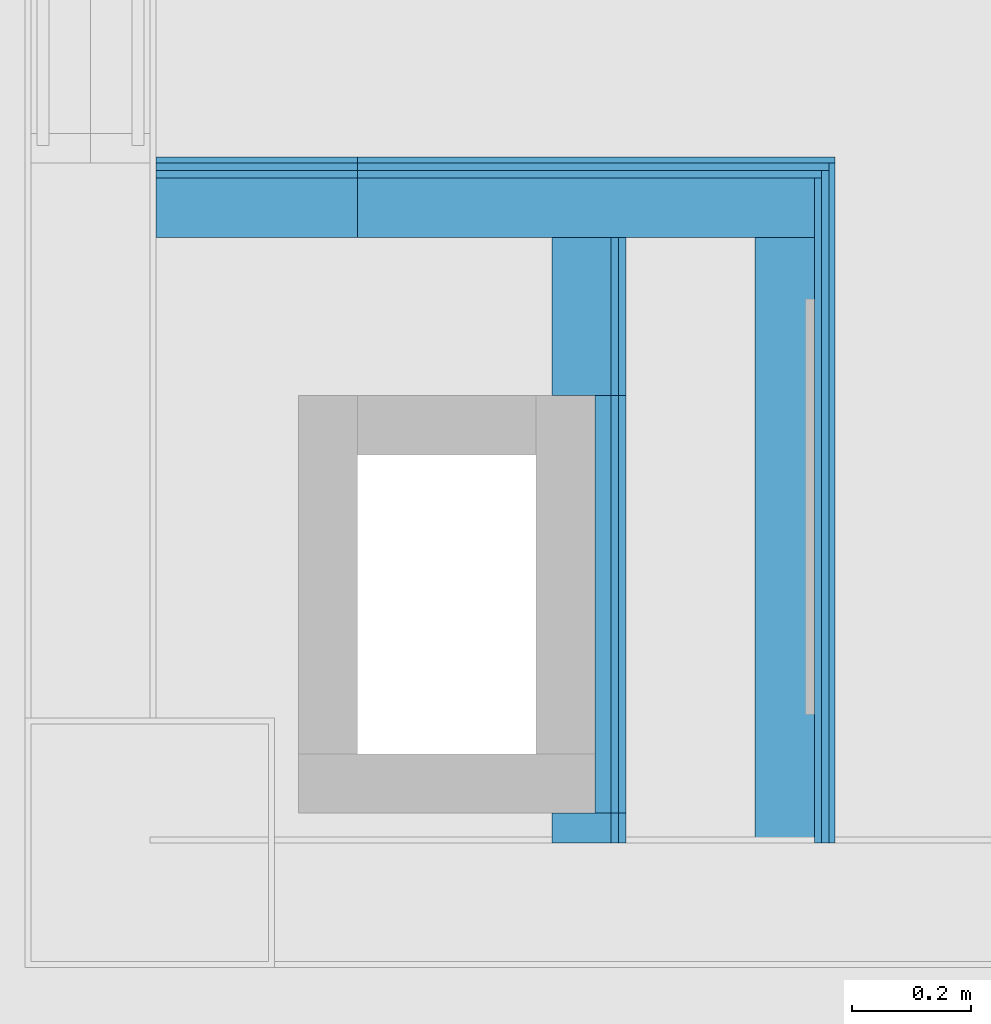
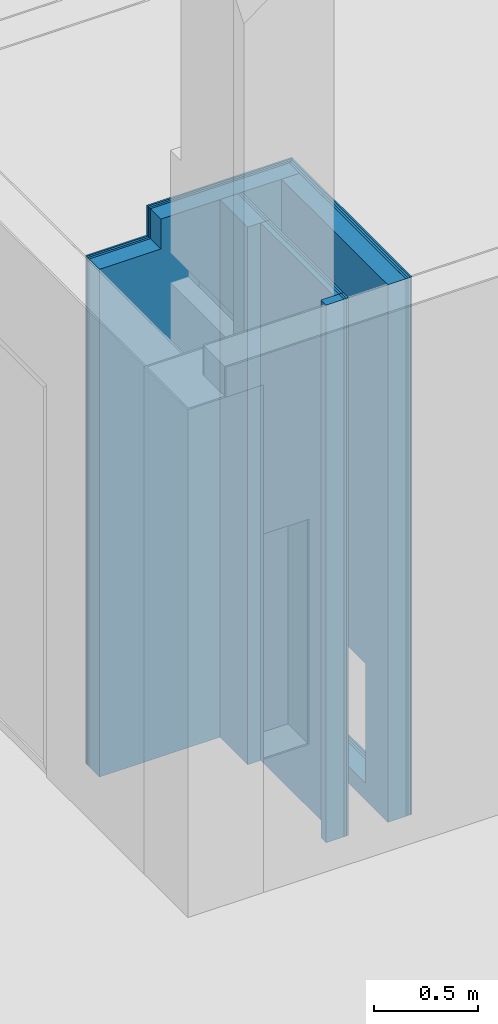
# One storey, part 73 of 139: 17 building element parts, 1 opening, 5 elements without a shape of their own.
"""IFC2X3 building model written with IfcOpenShell, lengths in millimetres."""

from ifc_helpers import new_model, entity, si_unit, converted_unit, derived_unit, money_unit, direction, frame, origin_with_axes, place, context, subcontext, project, spatial, faceted_brep, material, type_object, element, aggregate, save


model = new_model("IFC2X3")

# Units and contexts
model_context = context("Model", 3, precision=0.01, world=origin_with_axes(), true_north=direction((0.0, 1.0)))
body_context = subcontext(model_context, "Body", "Model", "MODEL_VIEW")
ifc_project = project(units=[si_unit("LENGTHUNIT", "METRE", prefix="MILLI"), si_unit("AREAUNIT", "SQUARE_METRE"), si_unit("VOLUMEUNIT", "CUBIC_METRE"), converted_unit("PLANEANGLEUNIT", "DEGREE", entity("IfcPlaneAngleMeasure", 0.0174532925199), si_unit("PLANEANGLEUNIT", "RADIAN"), dimensions=[0, 0, 0, 0, 0, 0, 0]), money_unit("EUR"), converted_unit("TIMEUNIT", "Year", entity("IfcTimeMeasure", 31556926.0), si_unit("TIMEUNIT", "SECOND"), dimensions=[0, 0, 1, 0, 0, 0, 0]), si_unit("MASSUNIT", "GRAM", prefix="KILO"), si_unit("THERMODYNAMICTEMPERATUREUNIT", "DEGREE_CELSIUS"), si_unit("LUMINOUSINTENSITYUNIT", "LUMEN"), si_unit("ENERGYUNIT", "JOULE", prefix="MEGA"), derived_unit("THERMALCONDUCTANCEUNIT", [(si_unit("POWERUNIT", "WATT"), 1), (si_unit("LENGTHUNIT", "METRE"), -1), (si_unit("THERMODYNAMICTEMPERATUREUNIT", "KELVIN"), -1)]), derived_unit("SPECIFICHEATCAPACITYUNIT", [(si_unit("ENERGYUNIT", "JOULE"), 1), (si_unit("MASSUNIT", "GRAM", prefix="KILO"), -1), (si_unit("THERMODYNAMICTEMPERATUREUNIT", "KELVIN"), -1)]), derived_unit("MASSDENSITYUNIT", [(si_unit("MASSUNIT", "GRAM", prefix="KILO"), 1), (si_unit("VOLUMEUNIT", "CUBIC_METRE"), -1)])], contexts=[model_context])

# Site, building, storey
site_placement = place(None, origin_with_axes())
site = spatial("IfcSite", under=ifc_project, at=site_placement, Name="Kolde pst 67a", CompositionType="ELEMENT")
building_placement = place(site_placement, origin_with_axes())
building = spatial("IfcBuilding", under=site, at=building_placement, Name="Riigigümnaasium", CompositionType="ELEMENT")
storey_placement = place(building_placement, frame((0.0, 0.0, 4600.0), z_axis=(0.0, 0.0, 1.0), x_axis=(1.0, 0.0, 0.0)))
storey = spatial("IfcBuildingStorey", under=building, at=storey_placement, Name="2. korrus", CompositionType="ELEMENT", Elevation=4600.0)

# Wall, building element parts
wall_type_1 = type_object("IfcWallType", Name="SS-MK-10/6_šahti sein+krohv 40 dB 135", PredefinedType="NOTDEFINED")
wall_1_placement = place(storey_placement, frame((58339.9488767, 12054.9619407, 0.0), z_axis=(0.0, 0.0, 1.0), x_axis=(1.0, 0.0, 0.0)))
wall_1 = element("IfcWall", 1, at=wall_1_placement, inside=storey, type_object=wall_type_1, Name="Sisesein")
ifc_material_1 = material(Name="_VIIMISTLUSKIHT - viimistlus vastavalt SA osale")
building_element_part_1_placement = place(wall_1_placement, origin_with_axes())
building_element_part_1 = element("IfcBuildingElementPart", 2, at=building_element_part_1_placement, material=ifc_material_1, Name="_VIIMISTLUSKIHT - viimistlus vastavalt SA osale", context=body_context, shape_type="Brep", body=[
    faceted_brep([(189.999980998, 0.0, 2975.0), (339.999980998, 0.0, 2975.0), (339.999980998, 0.0, 3150.0), (1144.11258875, 0.0, 3150.0), (1144.11258875, 0.0, 0.0), (0.0, 0.0, 0.0), (0.0, 0.0, 2975.0), (189.999980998, -10.0, 2975.0), (339.999980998, -10.0, 2975.0), (339.999980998, -10.0, 3150.0), (1144.11258875, -10.0, 3150.0), (1144.11258875, -10.0, 0.0), (0.0, -10.0, 0.0), (0.0, -10.0, 2975.0)], [[[0, 1, 2, 3, 4, 5, 6]], [[1, 0, 7, 8]], [[9, 2, 1, 8]], [[2, 9, 10, 3]], [[3, 10, 11, 4]], [[4, 11, 12, 5]], [[13, 6, 5, 12]], [[0, 6, 13, 7]], [[7, 13, 12, 11, 10, 9, 8]]]),
])
ifc_material_2 = material(Name="_PLAATMATERJAL - kipsplaat veekindel")
building_element_part_2_placement = place(wall_1_placement, origin_with_axes())
building_element_part_2 = element("IfcBuildingElementPart", 3, at=building_element_part_2_placement, material=ifc_material_2, Name="_PLAATMATERJAL - kipsplaat veekindel", context=body_context, shape_type="Brep", body=[
    faceted_brep([(189.999980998, -10.0, 2975.0), (339.999980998, -10.0, 2975.0), (339.999980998, -10.0, 3150.0), (1134.11258875, -10.0, 3150.0), (1134.11258875, -10.0, 0.0), (0.0, -10.0, 0.0), (0.0, -10.0, 2975.0), (189.999980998, -22.5, 2975.0), (339.999980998, -22.5, 2975.0), (339.999980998, -22.5, 3150.0), (1134.11258875, -22.5, 3150.0), (1134.11258875, -22.5, 0.0), (0.0, -22.5, 0.0), (0.0, -22.5, 2975.0)], [[[0, 1, 2, 3, 4, 5, 6]], [[1, 0, 7, 8]], [[9, 2, 1, 8]], [[2, 9, 10, 3]], [[3, 10, 11, 4]], [[4, 11, 12, 5]], [[13, 6, 5, 12]], [[0, 6, 13, 7]], [[7, 13, 12, 11, 10, 9, 8]]]),
])
building_element_part_3_placement = place(wall_1_placement, origin_with_axes())
building_element_part_3 = element("IfcBuildingElementPart", 4, at=building_element_part_3_placement, material=ifc_material_2, Name="_PLAATMATERJAL - kipsplaat veekindel", context=body_context, shape_type="Brep", body=[
    faceted_brep([(189.999980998, -22.5, 2975.0), (339.999980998, -22.5, 2975.0), (339.999980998, -22.5, 3150.0), (1121.61258875, -22.5, 3150.0), (1121.61258875, -22.5, 0.0), (0.0, -22.5, 0.0), (0.0, -22.5, 2975.0), (189.999980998, -35.0, 2975.0), (339.999980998, -35.0, 2975.0), (339.999980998, -35.0, 3150.0), (1121.61258875, -35.0, 3150.0), (1121.61258875, -35.0, 0.0), (0.0, -35.0, 0.0), (0.0, -35.0, 2975.0)], [[[0, 1, 2, 3, 4, 5, 6]], [[1, 0, 7, 8]], [[9, 2, 1, 8]], [[2, 9, 10, 3]], [[3, 10, 11, 4]], [[4, 11, 12, 5]], [[13, 6, 5, 12]], [[0, 6, 13, 7]], [[7, 13, 12, 11, 10, 9, 8]]]),
])
ifc_material_3 = material(Name="_KARKASS - metallkarkass CW 100/50/06 ja UW 100/40/06, samm 600, vahel mineraalvill, helineeldetegur αw = 1.0,  ISOVER ACOUSTIC 100mm või samaväärne")
building_element_part_4_placement = place(wall_1_placement, origin_with_axes())
building_element_part_4 = element("IfcBuildingElementPart", 5, at=building_element_part_4_placement, material=ifc_material_3, Name="_KARKASS - metallkarkass CW 100/50/06 ja UW 100/40/06, samm 600, vahel mineraalvill, helineeldetegur αw = 1.0,  ISOVER ACOUSTIC 100mm või samaväärne", context=body_context, shape_type="Brep", body=[
    faceted_brep([(189.999980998, -35.0, 2975.0), (339.999980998, -35.0, 2975.0), (339.999980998, -35.0, 3150.0), (1109.11258875, -35.0, 3150.0), (1109.11258875, -35.0, 0.0), (0.0, -35.0, 0.0), (0.0, -35.0, 2975.0), (189.999980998, -135.0, 2975.0), (339.999980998, -135.0, 2975.0), (339.999980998, -135.0, 3150.0), (1109.11258875, -135.0, 3150.0), (1109.11258875, -135.0, 0.0), (0.0, -135.0, 0.0), (0.0, -135.0, 2975.0)], [[[0, 1, 2, 3, 4, 5, 6]], [[1, 0, 7, 8]], [[9, 2, 1, 8]], [[2, 9, 10, 3]], [[3, 10, 11, 4]], [[4, 11, 12, 5]], [[13, 6, 5, 12]], [[0, 6, 13, 7]], [[7, 13, 12, 11, 10, 9, 8]]]),
])
aggregate(wall_1, [building_element_part_1, building_element_part_2, building_element_part_3, building_element_part_4])

# Wall, opening, building element parts
wall_2_placement = place(storey_placement, frame((59484.0614655, 12054.9619407, 0.0), z_axis=(0.0, 0.0, 1.0), x_axis=(0.0, -1.0, 0.0)))
wall_2 = element("IfcWall", 6, at=wall_2_placement, inside=storey, type_object=wall_type_1, Name="Sisesein")
opening_placement = place(wall_2_placement, frame((588.75, 0.0, 100.0), z_axis=(0.0, 0.0, 1.0), x_axis=(1.0, 0.0, 0.0)))
element("IfcOpeningElement", 7, at=opening_placement, cuts=wall_2, Name="Hooldusluuk vastavalt SA osale", context=body_context, shape_type="Brep", body=[
    faceted_brep([(350.0, -135.0, 700.0), (350.0, -135.0, 0.0), (350.0, 270.0, 0.0), (350.0, 270.0, 700.0), (-350.0, -135.0, 700.0), (-350.0, -135.0, 0.0), (-350.0, 270.0, 0.0), (-350.0, 270.0, 700.0)], [[[0, 1, 2, 3]], [[0, 4, 5, 1]], [[1, 5, 6, 2]], [[3, 2, 6, 7]], [[4, 0, 3, 7]], [[5, 4, 7, 6]]]),
])
building_element_part_5_placement = place(wall_2_placement, origin_with_axes())
building_element_part_5 = element("IfcBuildingElementPart", 8, at=building_element_part_5_placement, material=ifc_material_1, Name="_VIIMISTLUSKIHT - viimistlus vastavalt SA osale", context=body_context, shape_type="Brep", body=[
    faceted_brep([(10.0, -9.99999016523, 3150.0), (10.0, -9.99999991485, 0.0), (1155.0, -9.99999016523, 0.0), (1155.0, -9.99999842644, 3150.0), (938.75, -9.99999842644, 100.0), (238.75, -9.99999842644, 100.0), (238.75, -9.99999842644, 800.0), (938.75, -9.99999842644, 800.0), (10.0, 0.0, 3150.0), (10.0, 0.0, 0.0), (1155.0, -1.31130377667e-05, 0.0), (1155.0, -1.31130306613e-05, 3150.0), (938.75, 0.0, 100.0), (238.75, 0.0, 100.0), (238.75, 0.0, 800.0), (938.75, 0.0, 800.0)], [[[0, 1, 2, 3], [4, 5, 6, 7]], [[8, 9, 1, 0]], [[1, 9, 10, 2]], [[3, 2, 10, 11]], [[8, 0, 3, 11]], [[12, 13, 5, 4]], [[13, 14, 6, 5]], [[14, 15, 7, 6]], [[15, 12, 4, 7]], [[11, 10, 9, 8], [12, 15, 14, 13]]]),
])
building_element_part_6_placement = place(wall_2_placement, origin_with_axes())
building_element_part_6 = element("IfcBuildingElementPart", 9, at=building_element_part_6_placement, material=ifc_material_2, Name="_PLAATMATERJAL - kipsplaat veekindel", context=body_context, shape_type="Brep", body=[
    faceted_brep([(22.5, -22.5, 3150.0), (22.5, -22.5, 0.0), (1155.0, -22.5, 0.0), (1155.0, -22.5, 3150.0), (938.75, -22.5, 100.0), (238.75, -22.5, 100.0), (238.75, -22.5, 800.0), (938.75, -22.5, 800.0), (22.5, -9.99999016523, 3150.0), (22.5, -9.99999980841, 0.0), (1155.0, -9.99999016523, 0.0), (1155.0, -9.99999842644, 3150.0), (938.75, -9.99999016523, 100.0), (238.75, -9.99999016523, 100.0), (238.75, -9.99999016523, 800.0), (938.75, -9.99999016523, 800.0)], [[[0, 1, 2, 3], [4, 5, 6, 7]], [[8, 9, 1, 0]], [[1, 9, 10, 2]], [[3, 2, 10, 11]], [[8, 0, 3, 11]], [[12, 13, 5, 4]], [[13, 14, 6, 5]], [[14, 15, 7, 6]], [[15, 12, 4, 7]], [[11, 10, 9, 8], [12, 15, 14, 13]]]),
])
building_element_part_7_placement = place(wall_2_placement, origin_with_axes())
building_element_part_7 = element("IfcBuildingElementPart", 10, at=building_element_part_7_placement, material=ifc_material_2, Name="_PLAATMATERJAL - kipsplaat veekindel", context=body_context, shape_type="Brep", body=[
    faceted_brep([(35.0, -35.0000137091, 3150.0), (35.0, -35.0000004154, 0.0), (1155.0, -35.0000137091, 0.0), (1155.0, -35.0000021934, 3150.0), (938.75, -35.0000021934, 100.0), (238.75, -35.0000021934, 100.0), (238.75, -35.0000021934, 800.0), (938.75, -35.0000021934, 800.0), (35.0, -22.5, 3150.0), (35.0, -22.5, 0.0), (1155.0, -22.5, 0.0), (1155.0, -22.5, 3150.0), (938.75, -22.5, 100.0), (238.75, -22.5, 100.0), (238.75, -22.5, 800.0), (938.75, -22.5, 800.0)], [[[0, 1, 2, 3], [4, 5, 6, 7]], [[8, 9, 1, 0]], [[1, 9, 10, 2]], [[3, 2, 10, 11]], [[8, 0, 3, 11]], [[12, 13, 5, 4]], [[13, 14, 6, 5]], [[14, 15, 7, 6]], [[15, 12, 4, 7]], [[11, 10, 9, 8], [12, 15, 14, 13]]]),
])
building_element_part_8_placement = place(wall_2_placement, origin_with_axes())
building_element_part_8 = element("IfcBuildingElementPart", 11, at=building_element_part_8_placement, material=ifc_material_3, Name="_KARKASS - metallkarkass CW 100/50/06 ja UW 100/40/06, samm 600, vahel mineraalvill, helineeldetegur αw = 1.0,  ISOVER ACOUSTIC 100mm või samaväärne", context=body_context, shape_type="Brep", body=[
    faceted_brep([(135.0, -135.0, 3150.0), (135.0, -135.0, 0.0), (1155.0, -135.0, 0.0), (1155.0, -135.0, 3150.0), (938.75, -135.0, 100.0), (238.75, -135.0, 100.0), (238.75, -135.0, 800.0), (938.75, -135.0, 800.0), (135.0, -35.0000137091, 3150.0), (135.0, -35.0000016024, 0.0), (1155.0, -35.0000137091, 0.0), (1155.0, -35.0000021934, 3150.0), (938.75, -35.0000137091, 100.0), (238.75, -35.0000137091, 100.0), (238.75, -35.0000137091, 800.0), (938.75, -35.0000137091, 800.0)], [[[0, 1, 2, 3], [4, 5, 6, 7]], [[8, 9, 1, 0]], [[1, 9, 10, 2]], [[3, 2, 10, 11]], [[8, 0, 3, 11]], [[12, 13, 5, 4]], [[13, 14, 6, 5]], [[14, 15, 7, 6]], [[15, 12, 4, 7]], [[11, 10, 9, 8], [12, 15, 14, 13]]]),
])
aggregate(wall_2, [building_element_part_5, building_element_part_6, building_element_part_7, building_element_part_8])

# Wall, building element parts
wall_type_2 = type_object("IfcWallType", Name="SS-MK-2,7/1_2x kips karkassil 52", PredefinedType="NOTDEFINED")
wall_3_placement = place(storey_placement, frame((59079.966176, 10949.9619452, 0.0), z_axis=(0.0, 0.0, 1.0), x_axis=(0.0, 1.0, 0.0)))
wall_3 = element("IfcWall", 12, at=wall_3_placement, inside=storey, type_object=wall_type_2, Name="Sisesein")
ifc_material_4 = material(Name="_KARKASS - metallkarkass CW 66/35/06, samm 600")
building_element_part_9_placement = place(wall_3_placement, origin_with_axes())
building_element_part_9 = element("IfcBuildingElementPart", 13, at=building_element_part_9_placement, material=ifc_material_4, Name="_KARKASS - metallkarkass CW 66/35/06, samm 600", context=body_context, shape_type="Brep", body=[
    faceted_brep([(703.588089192, -27.0, 3150.0), (703.588089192, 0.0, 3150.0), (0.0, 0.0, 3150.0), (0.0, -27.0, 3150.0), (703.588089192, -27.0, 0.0), (703.588089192, 0.0, 0.0), (0.0, 0.0, 0.0), (0.0, -27.0, 0.0)], [[[0, 1, 2, 3]], [[0, 4, 5, 1]], [[1, 5, 6, 2]], [[3, 2, 6, 7]], [[4, 0, 3, 7]], [[5, 4, 7, 6]]]),
])
ifc_material_5 = material(Name="_PLAATMATERJAL - kipsplaat vastavalt ruumi nõuetele 12,5mm")
building_element_part_10_placement = place(wall_3_placement, origin_with_axes())
building_element_part_10 = element("IfcBuildingElementPart", 14, at=building_element_part_10_placement, material=ifc_material_5, Name="_PLAATMATERJAL - kipsplaat vastavalt ruumi nõuetele 12,5mm", context=body_context, shape_type="Brep", body=[
    faceted_brep([(703.588089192, -39.5, 3150.0), (703.588089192, -27.0, 3150.0), (0.0, -27.0, 3150.0), (0.0, -39.5, 3150.0), (703.588089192, -39.5, 0.0), (703.588089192, -27.0, 0.0), (0.0, -27.0, 0.0), (0.0, -39.5, 0.0)], [[[0, 1, 2, 3]], [[0, 4, 5, 1]], [[1, 5, 6, 2]], [[3, 2, 6, 7]], [[4, 0, 3, 7]], [[5, 4, 7, 6]]]),
])
building_element_part_11_placement = place(wall_3_placement, origin_with_axes())
building_element_part_11 = element("IfcBuildingElementPart", 15, at=building_element_part_11_placement, material=ifc_material_5, Name="_PLAATMATERJAL - kipsplaat vastavalt ruumi nõuetele 12,5mm", context=body_context, shape_type="Brep", body=[
    faceted_brep([(703.588089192, -52.0, 3150.0), (703.588089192, -39.5, 3150.0), (0.0, -39.5, 3150.0), (0.0, -52.0, 3150.0), (703.588089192, -52.0, 0.0), (703.588089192, -39.5, 0.0), (0.0, -39.5, 0.0), (0.0, -52.0, 0.0)], [[[0, 1, 2, 3]], [[0, 4, 5, 1]], [[1, 5, 6, 2]], [[3, 2, 6, 7]], [[4, 0, 3, 7]], [[5, 4, 7, 6]]]),
])
aggregate(wall_3, [building_element_part_9, building_element_part_10, building_element_part_11])

wall_type_3 = type_object("IfcWallType", Name="SS-MK-10/12_šahti sein viimistluseta 125", PredefinedType="NOTDEFINED")
wall_4_placement = place(storey_placement, frame((59131.966176, 10949.9619452, 0.0), z_axis=(0.0, 0.0, 1.0), x_axis=(0.0, -1.0, 0.0)))
wall_4 = element("IfcWall", 16, at=wall_4_placement, inside=storey, type_object=wall_type_3, Name="Sisesein")
building_element_part_12_placement = place(wall_4_placement, origin_with_axes())
building_element_part_12 = element("IfcBuildingElementPart", 17, at=building_element_part_12_placement, material=ifc_material_2, Name="_PLAATMATERJAL - kipsplaat veekindel", context=body_context, shape_type="Brep", body=[
    faceted_brep([(50.0000045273, -12.5, 3150.0), (50.0000045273, 0.0, 3150.0), (0.0, 0.0, 3150.0), (0.0, -12.5, 3150.0), (50.0000045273, -12.5, 0.0), (50.0000045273, 0.0, 0.0), (0.0, 0.0, 0.0), (0.0, -12.5, 0.0)], [[[0, 1, 2, 3]], [[0, 4, 5, 1]], [[1, 5, 6, 2]], [[3, 2, 6, 7]], [[4, 0, 3, 7]], [[5, 4, 7, 6]]]),
])
building_element_part_13_placement = place(wall_4_placement, origin_with_axes())
building_element_part_13 = element("IfcBuildingElementPart", 18, at=building_element_part_13_placement, material=ifc_material_2, Name="_PLAATMATERJAL - kipsplaat veekindel", context=body_context, shape_type="Brep", body=[
    faceted_brep([(50.0000045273, -25.0, 3150.0), (50.0000045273, -12.5, 3150.0), (0.0, -12.5, 3150.0), (0.0, -25.0, 3150.0), (50.0000045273, -25.0, 0.0), (50.0000045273, -12.5, 0.0), (0.0, -12.5, 0.0), (0.0, -25.0, 0.0)], [[[0, 1, 2, 3]], [[0, 4, 5, 1]], [[1, 5, 6, 2]], [[3, 2, 6, 7]], [[4, 0, 3, 7]], [[5, 4, 7, 6]]]),
])
building_element_part_14_placement = place(wall_4_placement, origin_with_axes())
building_element_part_14 = element("IfcBuildingElementPart", 19, at=building_element_part_14_placement, material=ifc_material_3, Name="_KARKASS - metallkarkass CW 100/50/06 ja UW 100/40/06, samm 600, vahel mineraalvill, helineeldetegur αw = 1.0,  ISOVER ACOUSTIC 100mm või samaväärne", context=body_context, shape_type="Brep", body=[
    faceted_brep([(50.0000045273, -125.0, 3150.0), (50.0000045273, -25.0, 3150.0), (0.0, -25.0, 3150.0), (0.0, -125.0, 3150.0), (50.0000045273, -125.0, 0.0), (50.0000045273, -25.0, 0.0), (0.0, -25.0, 0.0), (0.0, -125.0, 0.0)], [[[0, 1, 2, 3]], [[0, 4, 5, 1]], [[1, 5, 6, 2]], [[3, 2, 6, 7]], [[4, 0, 3, 7]], [[5, 4, 7, 6]]]),
])
aggregate(wall_4, [building_element_part_12, building_element_part_13, building_element_part_14])

wall_5_placement = place(storey_placement, frame((59131.966176, 12054.9619407, 0.0), z_axis=(0.0, 0.0, 1.0), x_axis=(0.0, -1.0, 0.0)))
wall_5 = element("IfcWall", 20, at=wall_5_placement, inside=storey, type_object=wall_type_3, Name="Sisesein")
building_element_part_15_placement = place(wall_5_placement, origin_with_axes())
building_element_part_15 = element("IfcBuildingElementPart", 21, at=building_element_part_15_placement, material=ifc_material_2, Name="_PLAATMATERJAL - kipsplaat veekindel", context=body_context, shape_type="Brep", body=[
    faceted_brep([(401.411906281, -12.5, 3150.0), (401.411906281, 0.0, 3150.0), (135.0, 0.0, 3150.0), (135.0, -12.5, 3150.0), (401.411906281, -12.5, 0.0), (401.411906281, 0.0, 0.0), (135.0, 0.0, 0.0), (135.0, -12.5, 0.0)], [[[0, 1, 2, 3]], [[0, 4, 5, 1]], [[1, 5, 6, 2]], [[3, 2, 6, 7]], [[4, 0, 3, 7]], [[5, 4, 7, 6]]]),
])
building_element_part_16_placement = place(wall_5_placement, origin_with_axes())
building_element_part_16 = element("IfcBuildingElementPart", 22, at=building_element_part_16_placement, material=ifc_material_2, Name="_PLAATMATERJAL - kipsplaat veekindel", context=body_context, shape_type="Brep", body=[
    faceted_brep([(401.411906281, -25.0, 3150.0), (401.411906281, -12.5, 3150.0), (135.0, -12.5, 3150.0), (135.0, -25.0, 3150.0), (401.411906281, -25.0, 0.0), (401.411906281, -12.5, 0.0), (135.0, -12.5, 0.0), (135.0, -25.0, 0.0)], [[[0, 1, 2, 3]], [[0, 4, 5, 1]], [[1, 5, 6, 2]], [[3, 2, 6, 7]], [[4, 0, 3, 7]], [[5, 4, 7, 6]]]),
])
building_element_part_17_placement = place(wall_5_placement, origin_with_axes())
building_element_part_17 = element("IfcBuildingElementPart", 23, at=building_element_part_17_placement, material=ifc_material_3, Name="_KARKASS - metallkarkass CW 100/50/06 ja UW 100/40/06, samm 600, vahel mineraalvill, helineeldetegur αw = 1.0,  ISOVER ACOUSTIC 100mm või samaväärne", context=body_context, shape_type="Brep", body=[
    faceted_brep([(401.411906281, -125.0, 3150.0), (401.411906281, -25.0, 3150.0), (135.0, -25.0, 3150.0), (135.0, -125.0, 3150.0), (401.411906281, -125.0, 0.0), (401.411906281, -25.0, 0.0), (135.0, -25.0, 0.0), (135.0, -125.0, 0.0)], [[[0, 1, 2, 3]], [[0, 4, 5, 1]], [[1, 5, 6, 2]], [[3, 2, 6, 7]], [[4, 0, 3, 7]], [[5, 4, 7, 6]]]),
])
aggregate(wall_5, [building_element_part_15, building_element_part_16, building_element_part_17])

save(model, "model.ifc")
